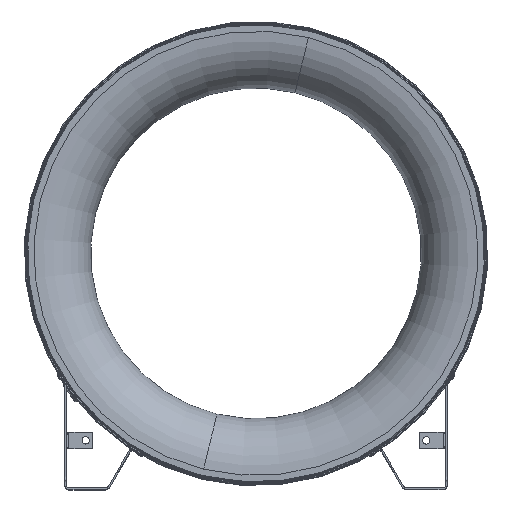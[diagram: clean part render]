
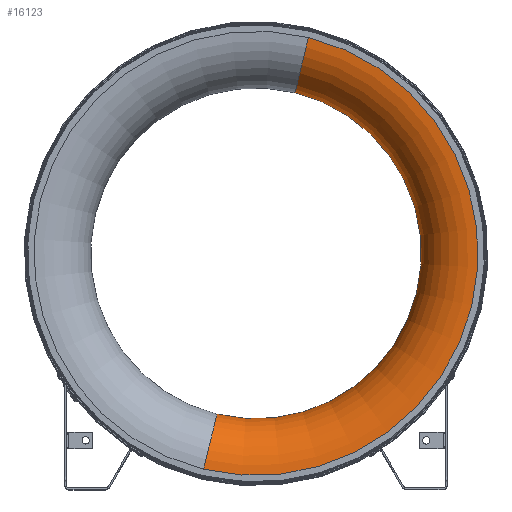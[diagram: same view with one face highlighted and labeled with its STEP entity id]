
A CAD part, top view. The second image highlights one B-rep face of the part: STEP entity #16123.
In plain terms, the highlighted toroidal (fillet/blend) face has major radius 272 mm and minor radius 69.5 mm.
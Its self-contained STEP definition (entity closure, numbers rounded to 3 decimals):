
#766 = AXIS2_PLACEMENT_3D ( 'NONE', #15718, #7711, #17063 ) ;
#1442 = VERTEX_POINT ( 'NONE', #7574 ) ;
#2549 = ORIENTED_EDGE ( 'NONE', *, *, #16205, .T. ) ;
#3604 = CARTESIAN_POINT ( 'NONE',  ( 64.199, 553.315, 199. ) ) ;
#3953 = CARTESIAN_POINT ( 'NONE',  ( 64.199, 553.315, 268.5 ) ) ;
#4856 = DIRECTION ( 'NONE',  ( 0.236, 0.972, 0. ) ) ;
#4946 = DIRECTION ( 'NONE',  ( -0.236, -0.972, 0. ) ) ;
#5389 = AXIS2_PLACEMENT_3D ( 'NONE', #3604, #12942, #4946 ) ;
#5729 = TOROIDAL_SURFACE ( 'NONE', #6379, 272., 69.5 ) ;
#5888 = DIRECTION ( 'NONE',  ( 0., 0., -1. ) ) ;
#6379 = AXIS2_PLACEMENT_3D ( 'NONE', #16832, #12837, #4856 ) ;
#6603 = DIRECTION ( 'NONE',  ( 0., 0., 1. ) ) ;
#6847 = VERTEX_POINT ( 'NONE', #7706 ) ;
#7574 = CARTESIAN_POINT ( 'NONE',  ( -47.795, 92.221, 199. ) ) ;
#7706 = CARTESIAN_POINT ( 'NONE',  ( -64.199, 24.685, 268.5 ) ) ;
#7711 = DIRECTION ( 'NONE',  ( 0.972, -0.236, 0. ) ) ;
#8225 = EDGE_CURVE ( 'NONE', #1442, #6847, #14656, .T. ) ;
#8651 = ORIENTED_EDGE ( 'NONE', *, *, #8225, .T. ) ;
#10291 = VERTEX_POINT ( 'NONE', #3953 ) ;
#10601 = ORIENTED_EDGE ( 'NONE', *, *, #12978, .F. ) ;
#10873 = ORIENTED_EDGE ( 'NONE', *, *, #16804, .T. ) ;
#10885 = AXIS2_PLACEMENT_3D ( 'NONE', #14603, #6603, #15955 ) ;
#11158 = CARTESIAN_POINT ( 'NONE',  ( 47.795, 485.779, 199. ) ) ;
#12407 = CIRCLE ( 'NONE', #10885, 272. ) ;
#12837 = DIRECTION ( 'NONE',  ( 0., 0., -1. ) ) ;
#12863 = AXIS2_PLACEMENT_3D ( 'NONE', #13877, #5888, #15224 ) ;
#12942 = DIRECTION ( 'NONE',  ( -0.972, 0.236, 0. ) ) ;
#12978 = EDGE_CURVE ( 'NONE', #14865, #10291, #15586, .T. ) ;
#13877 = CARTESIAN_POINT ( 'NONE',  ( 0., 289., 199. ) ) ;
#14603 = CARTESIAN_POINT ( 'NONE',  ( 0., 289., 268.5 ) ) ;
#14656 = CIRCLE ( 'NONE', #766, 69.5 ) ;
#14677 = CIRCLE ( 'NONE', #12863, 202.5 ) ;
#14865 = VERTEX_POINT ( 'NONE', #11158 ) ;
#15224 = DIRECTION ( 'NONE',  ( 0.236, 0.972, 0. ) ) ;
#15586 = CIRCLE ( 'NONE', #5389, 69.5 ) ;
#15718 = CARTESIAN_POINT ( 'NONE',  ( -64.199, 24.685, 199. ) ) ;
#15955 = DIRECTION ( 'NONE',  ( -0.236, -0.972, 0. ) ) ;
#15967 = EDGE_LOOP ( 'NONE', ( #10873, #8651, #2549, #10601 ) ) ;
#16123 = ADVANCED_FACE ( 'NONE', ( #17221 ), #5729, .T. ) ;
#16205 = EDGE_CURVE ( 'NONE', #6847, #10291, #12407, .T. ) ;
#16804 = EDGE_CURVE ( 'NONE', #14865, #1442, #14677, .T. ) ;
#16832 = CARTESIAN_POINT ( 'NONE',  ( 0., 289., 199. ) ) ;
#17063 = DIRECTION ( 'NONE',  ( 0.236, 0.972, 0. ) ) ;
#17221 = FACE_OUTER_BOUND ( 'NONE', #15967, .T. ) ;
